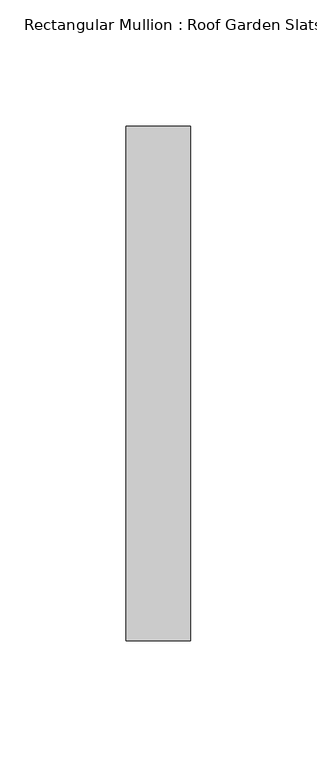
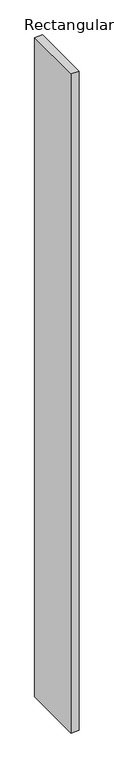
"""IFC4 building model written with IfcOpenShell, lengths in millimetres: member geometry, Rectangular Mullion : Roof Garden Slats."""

from ifc_helpers import new_model, si_unit, frame, origin, place, context, project, spatial, polyline, outline, extrude, source, transform, mapped, element, save


def rectangular_mullion_roof_garden_slats_b89bae1c(model_context):
    return source(origin(), model_context, "Body", "SweptSolid", [
        extrude(outline(polyline([(12.7, 139.7), (12.7, -63.5), (-12.7, -63.5), (-12.7, 139.7), (12.7, 139.7)])), frame((0.0, 0.0, -2247.0324985), z_axis=(0.0, 0.0, 1.0), x_axis=(1.0, 0.0, 0.0)), (0.0, 0.0, 1.0), 2247.0324985),
    ])


if __name__ == "__main__":
    model = new_model("IFC4")
    model_context = context("Model", 3, world=origin())
    ifc_project = project(units=[si_unit("LENGTHUNIT", "METRE", prefix="MILLI")], contexts=[model_context])
    site = spatial("IfcSite", under=ifc_project)
    building = spatial("IfcBuilding", under=site)
    placement = place(None, origin())
    rectangular_mullion_roof_garden_slats_shape = rectangular_mullion_roof_garden_slats_b89bae1c(model_context)
    element("IfcMember", 1, ObjectType="Rectangular Mullion : Roof Garden Slats", at=placement, inside=building, context=model_context, shape_type="MappedRepresentation", body=[
        mapped(rectangular_mullion_roof_garden_slats_shape, transform((0.0, 0.0, 0.0), x_axis=(1.0, 0.0, 0.0), y_axis=(0.0, 1.0, 0.0), z_axis=(0.0, 0.0, 1.0))),
    ])
    save(model, "model.ifc")
